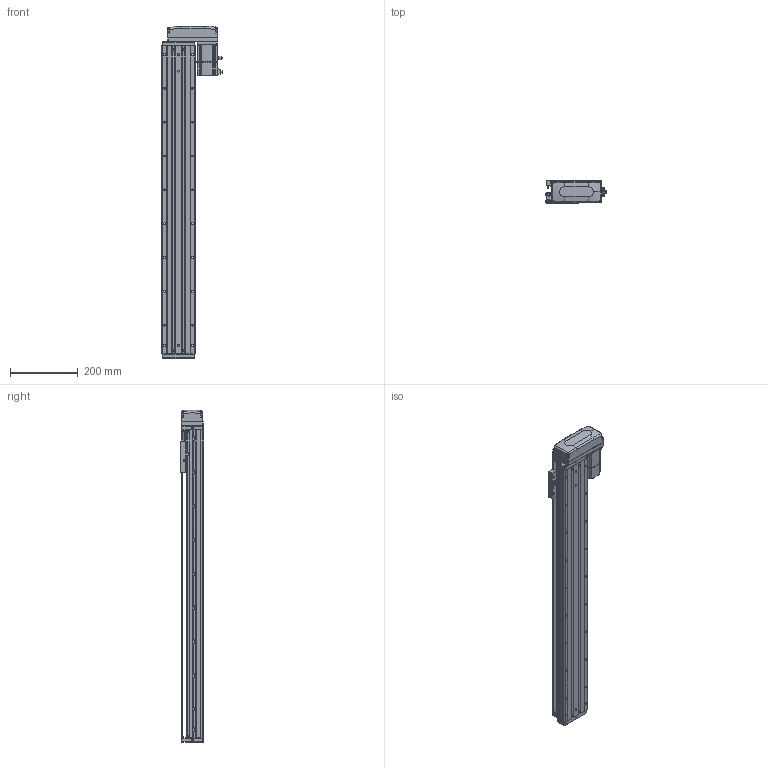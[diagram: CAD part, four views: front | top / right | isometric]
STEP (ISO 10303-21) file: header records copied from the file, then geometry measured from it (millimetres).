
FILE_DESCRIPTION (( 'STEP AP203' ), '1' );
FILE_NAME ('KTHA100-750-BL-M20-C4L.step', '2022-04-26T01:49:54', ( '微软用户' ), ( '微软中国' ), 'SwSTEP 2.0', 'SolidWorks 2020', '' );
FILE_SCHEMA (( 'CONFIG_CONTROL_DESIGN' ));
Length unit declared in the file: millimetre
Products named in the file (17): KTHA100-005; GBT70.1 M5℅16; GB¨uT 70.2-M3¡Á5_M3¡Á6; CTHA60-016; EE_SX911P_R; GBT 70.3-M3℅6; KTHA100-750-BL-M20-C4L; CTHA60-017; _X2_4E0983F1_X0_200W_1; KTHA100-001_910; CTHA60-021; CTHA86-015-1_CTHA86-015-2; KTHA100-002; GBT77-2000 M3×3; CTHA86-033; KTHA100-004; GBT 70.1-M3℅6
Assembly tree (57 placements, depth 2):
  KTHA100-750-BL-M20-C4L
    KTHA100-001_910
    KTHA100-002
    KTHA100-004
    KTHA100-005
    GB¨uT 70.2-M3¡Á5_M3¡Á6  x6
    EE_SX911P_R  x3
    CTHA60-017  x3
    CTHA60-021  x2
    GBT77-2000 M3×3  x6
    GBT 70.1-M3℅6  x10
    GBT70.1 M5℅16  x14
    CTHA60-016  x2
    GBT 70.3-M3℅6  x4
    _X2_4E0983F1_X0_200W_1
    CTHA86-015-1_CTHA86-015-2
    CTHA86-033
Bounding box: 177.7 x 68 x 981 mm (x, y, z)
Volume: 4226899.5 mm3; surface area: 687839.6 mm2
Topology: 60 solids, 60 shells, 2477 faces, 5945 edges, 3688 vertices
Faces by surface type: plane 1268, cylinder 689, cone 313, torus 116, bspline 75, sphere 16
Entity records: 43240 total; most frequent: CARTESIAN_POINT 8672, DIRECTION 6712, ORIENTED_EDGE 6502, EDGE_CURVE 3251, AXIS2_PLACEMENT_3D 2336, VERTEX_POINT 2048, LINE 2040, VECTOR 2040
